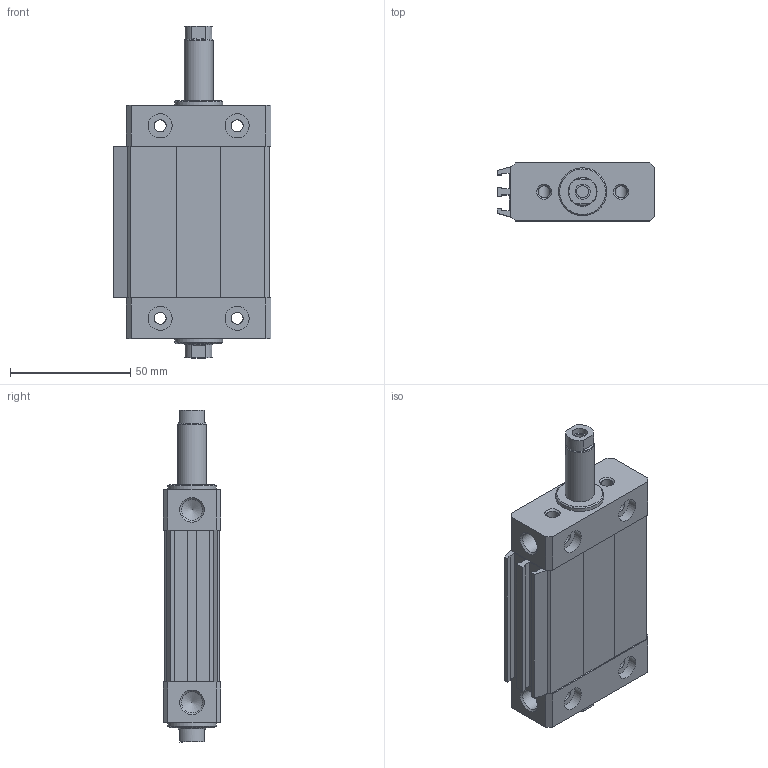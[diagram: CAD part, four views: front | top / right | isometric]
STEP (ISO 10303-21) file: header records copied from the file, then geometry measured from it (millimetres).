
FILE_DESCRIPTION((''),'2;1');
FILE_NAME('I:\Area Tecnica\Disegni\VARIE-3D\Componenti\1370 - CPO\1370_##_0000_03\1370_32_0025_03-01.iam.step','2010-12-16T10:54:23',(''),(''),'Autodesk Inventor 2011','Autodesk Inventor 2011','');
FILE_SCHEMA(('AUTOMOTIVE_DESIGN { 1 0 10303 214 1 1 1 1 }'));
Length unit declared in the file: millimetre
Products named in the file (5): 1370_32_0025_03-01; 1370_05_32_0000; 1370_06_32_0025; 1370_08_32_0000; 1370_3_32_0025
Assembly tree (4 placements, depth 2):
  1370_32_0025_03-01
    1370_05_32_0000
    1370_06_32_0025
    1370_08_32_0000
    1370_3_32_0025
Bounding box: 65.5 x 24 x 138 mm (x, y, z)
Volume: 118626.3 mm3; surface area: 48524.8 mm2
Topology: 4 solids, 4 shells, 164 faces, 392 edges, 250 vertices
Faces by surface type: plane 92, cylinder 48, cone 24
Full cylindrical faces by diameter (mm): 5 x12, 6.3 x2, 8.7 x2, 10 x8, 11.5 x2, 12 x4, 20 x2
Entity records: 4780 total; most frequent: DIRECTION 792, CARTESIAN_POINT 787, ORIENTED_EDGE 660, EDGE_CURVE 330, AXIS2_PLACEMENT_3D 297, EDGE_LOOP 252, VERTEX_POINT 240, VECTOR 198
